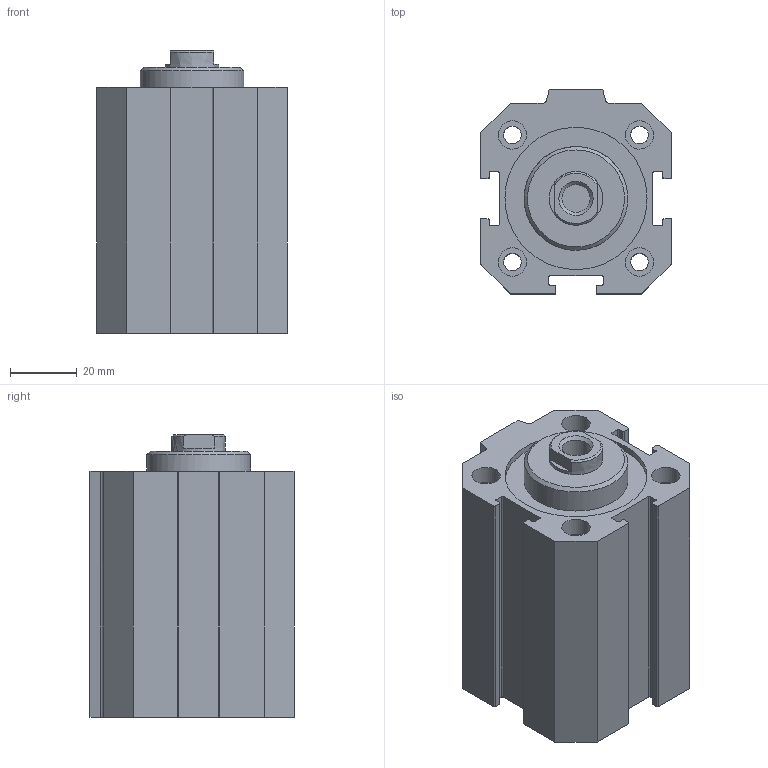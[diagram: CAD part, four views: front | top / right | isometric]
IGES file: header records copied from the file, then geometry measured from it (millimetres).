
Global section: file name: 1511_40_0035; native system: Autodesk Inventor 2014; preprocessor: unknown; author: A. Manieri; date: 20160824.120059; units: millimetre
Bounding box: 57 x 61 x 84.5 mm (x, y, z)
Volume: 170698.3 mm3; surface area: 49355.6 mm2
Topology: 2 solids, 2 shells, 117 faces, 300 edges, 205 vertices
Faces by surface type: bspline 117
